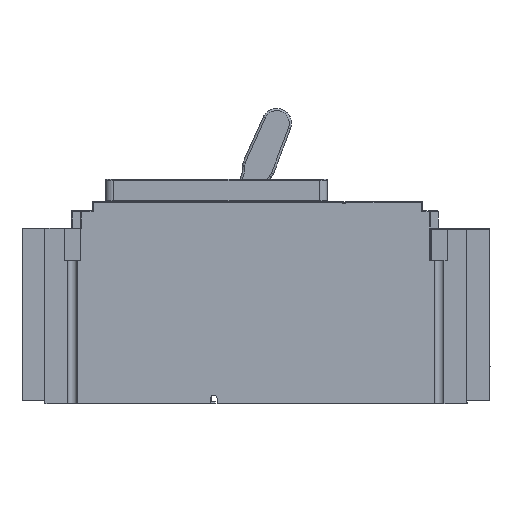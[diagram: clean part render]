
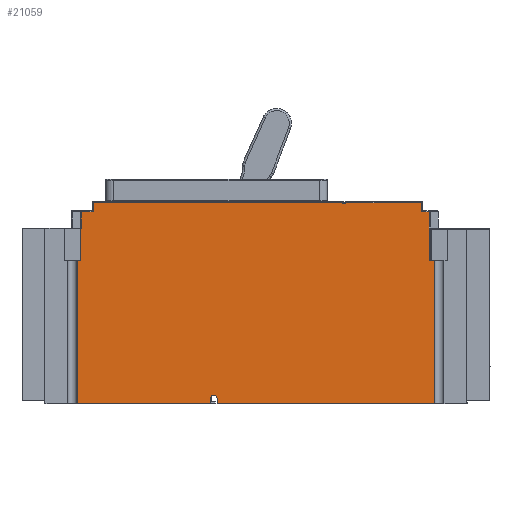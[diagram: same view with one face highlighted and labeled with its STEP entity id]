
A CAD part, left-side view. The second image highlights one B-rep face of the part: STEP entity #21059.
In plain terms, the highlighted planar face has unit normal (-1, 0, 0).
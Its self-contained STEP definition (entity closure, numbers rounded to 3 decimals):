
#2224=DIRECTION('',(0.,1.,0.));
#2225=VECTOR('',#2224,2.953);
#2226=CARTESIAN_POINT('',(0.,30.167,78.));
#2227=LINE('',#2226,#2225);
#2271=DIRECTION('',(0.,0.,-1.));
#2272=VECTOR('',#2271,78.);
#2273=CARTESIAN_POINT('',(0.,30.167,78.));
#2274=LINE('',#2273,#2272);
#2275=DIRECTION('',(0.,1.,0.));
#2276=VECTOR('',#2275,118.583);
#2277=CARTESIAN_POINT('',(0.,30.167,0.));
#2278=LINE('',#2277,#2276);
#2279=CARTESIAN_POINT('',(0.,150.5,
2.918));
#2280=DIRECTION('',(-1.,0.,0.));
#2281=DIRECTION('',(0.,-1.,0.));
#2282=AXIS2_PLACEMENT_3D('',#2279,#2280,#2281);
#2284=CARTESIAN_POINT('',(0.,150.5,
2.918));
#2285=DIRECTION('',(-1.,0.,0.));
#2286=DIRECTION('',(0.,0.,1.));
#2287=AXIS2_PLACEMENT_3D('',#2284,#2285,#2286);
#2289=DIRECTION('',(0.,0.,-1.));
#2290=VECTOR('',#2289,2.918);
#2291=CARTESIAN_POINT('',(0.,152.25,2.918));
#2292=LINE('',#2291,#2290);
#2293=DIRECTION('',(0.,1.,0.));
#2294=VECTOR('',#2293,72.713);
#2295=CARTESIAN_POINT('',(0.,152.25,0.));
#2296=LINE('',#2295,#2294);
#2297=DIRECTION('',(0.,-1.,0.));
#2298=VECTOR('',#2297,0.351);
#2299=CARTESIAN_POINT('',(0.,223.009,95.5));
#2300=LINE('',#2299,#2298);
#2301=DIRECTION('',(0.,0.,1.));
#2302=VECTOR('',#2301,5.);
#2303=CARTESIAN_POINT('',(0.,216.216,104.5));
#2304=LINE('',#2303,#2302);
#2305=DIRECTION('',(0.,-1.,0.));
#2306=VECTOR('',#2305,136.107);
#2307=CARTESIAN_POINT('',(0.,216.216,
109.5));
#2308=LINE('',#2307,#2306);
#2309=DIRECTION('',(0.,-1.,0.));
#2310=VECTOR('',#2309,1.489);
#2311=CARTESIAN_POINT('',(0.,80.109,109.));
#2312=LINE('',#2311,#2310);
#2313=DIRECTION('',(0.,-1.,0.));
#2314=VECTOR('',#2313,4.214);
#2315=CARTESIAN_POINT('',(0.,37.334,104.5));
#2316=LINE('',#2315,#2314);
#2326=DIRECTION('',(0.,0.,1.));
#2327=VECTOR('',#2326,26.5);
#2328=CARTESIAN_POINT('',(0.,33.119,78.));
#2329=LINE('',#2328,#2327);
#3079=DIRECTION('',(0.,0.,1.));
#3080=VECTOR('',#3079,5.);
#3081=CARTESIAN_POINT('',(0.,37.334,104.5));
#3082=LINE('',#3081,#3080);
#3091=DIRECTION('',(0.,1.,0.));
#3092=VECTOR('',#3091,41.286);
#3093=CARTESIAN_POINT('',(0.,37.334,109.5));
#3094=LINE('',#3093,#3092);
#3119=DIRECTION('',(0.,0.,-1.));
#3120=VECTOR('',#3119,0.5);
#3121=CARTESIAN_POINT('',(0.,78.619,109.5));
#3122=LINE('',#3121,#3120);
#3335=DIRECTION('',(0.,0.,1.));
#3336=VECTOR('',#3335,0.5);
#3337=CARTESIAN_POINT('',(0.,80.109,109.));
#3338=LINE('',#3337,#3336);
#4463=DIRECTION('',(0.,0.,-1.));
#4464=VECTOR('',#4463,2.918);
#4465=CARTESIAN_POINT('',(0.,148.75,
2.918));
#4466=LINE('',#4465,#4464);
#10477=DIRECTION('',(0.,0.,-1.));
#10478=VECTOR('',#10477,9.);
#10479=CARTESIAN_POINT('',(0.,222.657,104.5));
#10480=LINE('',#10479,#10478);
#10494=DIRECTION('',(0.,0.,-1.));
#10495=VECTOR('',#10494,17.5);
#10496=CARTESIAN_POINT('',(0.,223.009,95.5));
#10497=LINE('',#10496,#10495);
#10511=DIRECTION('',(0.,1.,0.));
#10512=VECTOR('',#10511,1.955);
#10513=CARTESIAN_POINT('',(0.,223.009,78.));
#10514=LINE('',#10513,#10512);
#10545=DIRECTION('',(0.,0.,-1.));
#10546=VECTOR('',#10545,78.);
#10547=CARTESIAN_POINT('',(0.,224.963,78.));
#10548=LINE('',#10547,#10546);
#10621=DIRECTION('',(0.,1.,0.));
#10622=VECTOR('',#10621,6.441);
#10623=CARTESIAN_POINT('',(0.,216.216,104.5));
#10624=LINE('',#10623,#10622);
#14916=CARTESIAN_POINT('',(0.,148.75,0.));
#14917=VERTEX_POINT('',#14916);
#14918=CARTESIAN_POINT('',(0.,30.167,0.));
#14919=VERTEX_POINT('',#14918);
#15065=CARTESIAN_POINT('',(0.,224.963,0.));
#15067=VERTEX_POINT('',#15065);
#15068=CARTESIAN_POINT('',(0.,152.25,0.));
#15069=VERTEX_POINT('',#15068);
#15364=CARTESIAN_POINT('',(0.,222.657,104.5));
#15365=VERTEX_POINT('',#15364);
#15366=CARTESIAN_POINT('',(0.,222.657,95.5));
#15367=VERTEX_POINT('',#15366);
#16018=CARTESIAN_POINT('',(0.,223.009,78.));
#16019=CARTESIAN_POINT('',(0.,224.963,78.));
#16020=VERTEX_POINT('',#16018);
#16021=VERTEX_POINT('',#16019);
#16046=CARTESIAN_POINT('',(0.,78.619,109.5));
#16047=CARTESIAN_POINT('',(0.,78.619,109.));
#16048=VERTEX_POINT('',#16046);
#16049=VERTEX_POINT('',#16047);
#16050=CARTESIAN_POINT('',(0.,37.334,109.5));
#16051=VERTEX_POINT('',#16050);
#16052=CARTESIAN_POINT('',(0.,37.334,104.5));
#16053=VERTEX_POINT('',#16052);
#16054=CARTESIAN_POINT('',(0.,33.119,
104.5));
#16055=VERTEX_POINT('',#16054);
#16056=CARTESIAN_POINT('',(0.,30.167,78.));
#16057=VERTEX_POINT('',#16056);
#16058=CARTESIAN_POINT('',(0.,148.75,
2.918));
#16059=VERTEX_POINT('',#16058);
#16060=CARTESIAN_POINT('',(0.,150.5,
4.668));
#16061=CARTESIAN_POINT('',(0.,152.25,
2.918));
#16062=VERTEX_POINT('',#16060);
#16063=VERTEX_POINT('',#16061);
#16064=CARTESIAN_POINT('',(0.,223.009,95.5));
#16065=VERTEX_POINT('',#16064);
#16066=CARTESIAN_POINT('',(0.,216.216,104.5));
#16067=VERTEX_POINT('',#16066);
#16068=CARTESIAN_POINT('',(0.,216.216,
109.5));
#16069=VERTEX_POINT('',#16068);
#16070=CARTESIAN_POINT('',(0.,80.109,109.5));
#16071=VERTEX_POINT('',#16070);
#16072=CARTESIAN_POINT('',(0.,80.109,109.));
#16073=VERTEX_POINT('',#16072);
#18532=CARTESIAN_POINT('',(0.,33.119,78.));
#18533=VERTEX_POINT('',#18532);
#21009=CARTESIAN_POINT('',(0.,224.963,0.));
#21010=DIRECTION('',(-1.,0.,0.));
#21011=DIRECTION('',(0.,-1.,0.));
#21012=AXIS2_PLACEMENT_3D('',#21009,#21010,#21011);
#21013=PLANE('',#21012);
#21015=ORIENTED_EDGE('',*,*,#21014,.F.);
#21016=ORIENTED_EDGE('',*,*,#20959,.F.);
#21017=ORIENTED_EDGE('',*,*,#20949,.T.);
#21018=ORIENTED_EDGE('',*,*,#19111,.T.);
#21020=ORIENTED_EDGE('',*,*,#21019,.F.);
#21022=ORIENTED_EDGE('',*,*,#21021,.T.);
#21024=ORIENTED_EDGE('',*,*,#21023,.T.);
#21026=ORIENTED_EDGE('',*,*,#21025,.T.);
#21028=ORIENTED_EDGE('',*,*,#21027,.T.);
#21030=ORIENTED_EDGE('',*,*,#21029,.F.);
#21032=ORIENTED_EDGE('',*,*,#21031,.F.);
#21034=ORIENTED_EDGE('',*,*,#21033,.F.);
#21036=ORIENTED_EDGE('',*,*,#21035,.T.);
#21038=ORIENTED_EDGE('',*,*,#21037,.F.);
#21040=ORIENTED_EDGE('',*,*,#21039,.F.);
#21042=ORIENTED_EDGE('',*,*,#21041,.T.);
#21044=ORIENTED_EDGE('',*,*,#21043,.T.);
#21046=ORIENTED_EDGE('',*,*,#21045,.F.);
#21048=ORIENTED_EDGE('',*,*,#21047,.T.);
#21050=ORIENTED_EDGE('',*,*,#21049,.F.);
#21052=ORIENTED_EDGE('',*,*,#21051,.F.);
#21054=ORIENTED_EDGE('',*,*,#21053,.F.);
#21056=ORIENTED_EDGE('',*,*,#21055,.T.);
#21057=EDGE_LOOP('',(#21015,#21016,#21017,#21018,#21020,#21022,#21024,#21026,
#21028,#21030,#21032,#21034,#21036,#21038,#21040,#21042,#21044,#21046,#21048,
#21050,#21052,#21054,#21056));
#21058=FACE_OUTER_BOUND('',#21057,.F.);
#21059=ADVANCED_FACE('',(#21058),#21013,.T.);
#2283=CIRCLE('',#2282,1.75);
#2288=CIRCLE('',#2287,1.75);
#19111=EDGE_CURVE('',#14919,#14917,#2278,.T.);
#20949=EDGE_CURVE('',#16057,#14919,#2274,.T.);
#20959=EDGE_CURVE('',#16057,#18533,#2227,.T.);
#21014=EDGE_CURVE('',#18533,#16055,#2329,.T.);
#21019=EDGE_CURVE('',#16059,#14917,#4466,.T.);
#21021=EDGE_CURVE('',#16059,#16062,#2283,.T.);
#21023=EDGE_CURVE('',#16062,#16063,#2288,.T.);
#21025=EDGE_CURVE('',#16063,#15069,#2292,.T.);
#21027=EDGE_CURVE('',#15069,#15067,#2296,.T.);
#21029=EDGE_CURVE('',#16021,#15067,#10548,.T.);
#21031=EDGE_CURVE('',#16020,#16021,#10514,.T.);
#21033=EDGE_CURVE('',#16065,#16020,#10497,.T.);
#21035=EDGE_CURVE('',#16065,#15367,#2300,.T.);
#21037=EDGE_CURVE('',#15365,#15367,#10480,.T.);
#21039=EDGE_CURVE('',#16067,#15365,#10624,.T.);
#21041=EDGE_CURVE('',#16067,#16069,#2304,.T.);
#21043=EDGE_CURVE('',#16069,#16071,#2308,.T.);
#21045=EDGE_CURVE('',#16073,#16071,#3338,.T.);
#21047=EDGE_CURVE('',#16073,#16049,#2312,.T.);
#21049=EDGE_CURVE('',#16048,#16049,#3122,.T.);
#21051=EDGE_CURVE('',#16051,#16048,#3094,.T.);
#21053=EDGE_CURVE('',#16053,#16051,#3082,.T.);
#21055=EDGE_CURVE('',#16053,#16055,#2316,.T.);
